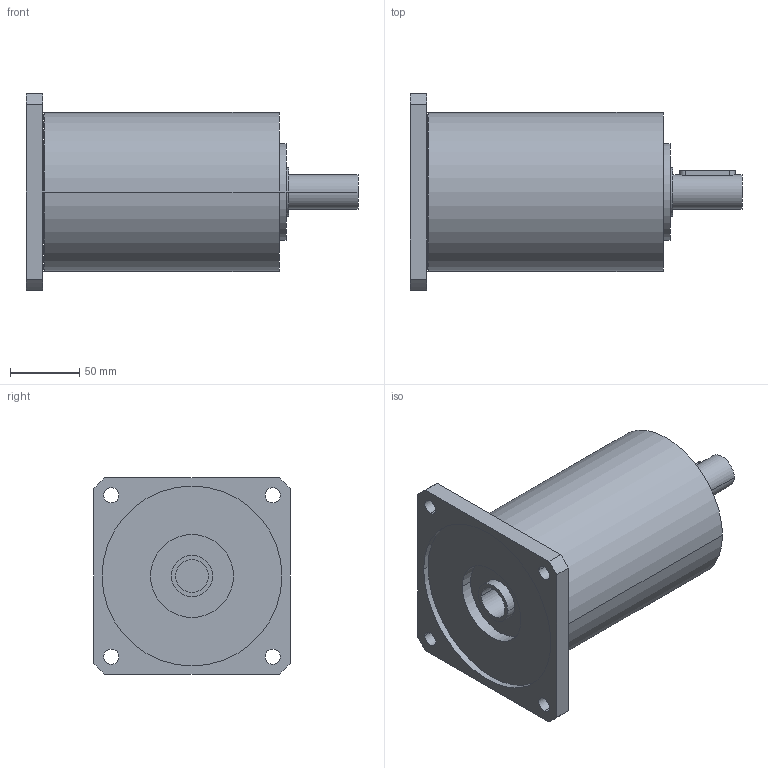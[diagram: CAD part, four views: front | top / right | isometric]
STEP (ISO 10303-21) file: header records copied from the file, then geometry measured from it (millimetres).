
FILE_DESCRIPTION(('CoCreate Modeling STEP Export'),'2;1');
FILE_NAME('GPR125_ig-9-12-16-20-28-35_25_B14_24_P08.stp','2014-08-26T14:11:19',(''),(''),'CoCreate Modeling STEP processor for AP214 (Solid Model)','CoCreate Modeling 16.00C 25-Feb-2009 (C) Parametric Technology GmbH','');
FILE_SCHEMA(('AUTOMOTIVE_DESIGN { 1 0 10303 214 1 1 1 1 }'));
Length unit declared in the file: millimetre
Products named in the file (2): GPR125_ig-9-12-16-20-28-35_25_B14_24_P08
Assembly tree (1 placements, depth 2):
  GPR125_ig-9-12-16-20-28-35_25_B14_24_P08
    GPR125_ig-9-12-16-20-28-35_25_B14_24_P08
Bounding box: 240 x 142 x 142 mm (x, y, z)
Volume: 1942947.4 mm3; surface area: 138759.7 mm2
Topology: 1 solids, 1 shells, 68 faces, 188 edges, 134 vertices
Faces by surface type: cylinder 42, plane 22, cone 4
Entity records: 1928 total; most frequent: ORIENTED_EDGE 372, CARTESIAN_POINT 363, DIRECTION 258, EDGE_CURVE 186, VERTEX_POINT 134, AXIS2_PLACEMENT_3D 97, EDGE_LOOP 90, FACE_OUTER_BOUND 68
